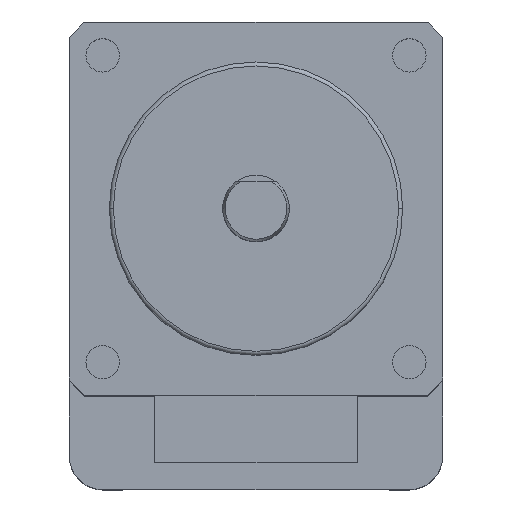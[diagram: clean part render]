
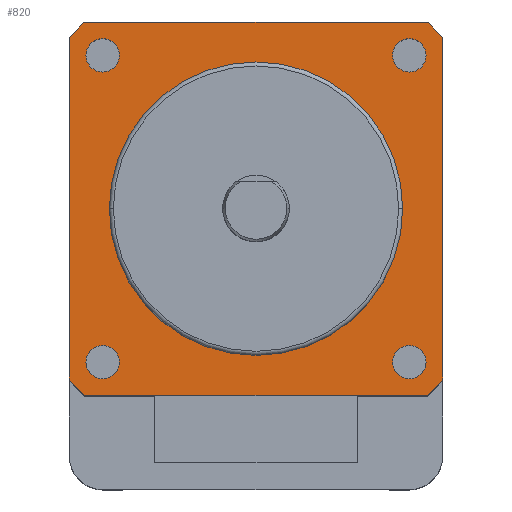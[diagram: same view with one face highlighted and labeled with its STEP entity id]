
A CAD part, top view. The second image highlights one B-rep face of the part: STEP entity #820.
In plain terms, the highlighted planar face has unit normal (0, 0, 1).
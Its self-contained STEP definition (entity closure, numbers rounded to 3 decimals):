
#7 = DIRECTION ( 'NONE',  ( 0., 0., -1. ) ) ;
#25 = LINE ( 'NONE', #780, #776 ) ;
#27 = FACE_BOUND ( 'NONE', #1908, .T. ) ;
#32 = VERTEX_POINT ( 'NONE', #1459 ) ;
#42 = CIRCLE ( 'NONE', #1407, 1.25 ) ;
#49 = ORIENTED_EDGE ( 'NONE', *, *, #1116, .F. ) ;
#64 = DIRECTION ( 'NONE',  ( 0., 0., 1. ) ) ;
#69 = DIRECTION ( 'NONE',  ( 0., 0., -1. ) ) ;
#83 = EDGE_CURVE ( 'NONE', #304, #1689, #1114, .T. ) ;
#108 = EDGE_CURVE ( 'NONE', #481, #397, #1608, .T. ) ;
#157 = CIRCLE ( 'NONE', #1224, 1.25 ) ;
#163 = VERTEX_POINT ( 'NONE', #314 ) ;
#166 = CARTESIAN_POINT ( 'NONE',  ( -14., -12.845, 0. ) ) ;
#170 = AXIS2_PLACEMENT_3D ( 'NONE', #701, #1456, #561 ) ;
#184 = AXIS2_PLACEMENT_3D ( 'NONE', #1494, #745, #1627 ) ;
#193 = CARTESIAN_POINT ( 'NONE',  ( -10.25, -11.5, 0. ) ) ;
#202 = FACE_BOUND ( 'NONE', #1420, .T. ) ;
#207 = AXIS2_PLACEMENT_3D ( 'NONE', #1006, #7, #1741 ) ;
#244 = CARTESIAN_POINT ( 'NONE',  ( -10.25, 11.5, 0. ) ) ;
#249 = DIRECTION ( 'NONE',  ( -1., 0., 0. ) ) ;
#253 = ORIENTED_EDGE ( 'NONE', *, *, #83, .F. ) ;
#280 = DIRECTION ( 'NONE',  ( 0., 0., 1. ) ) ;
#296 = DIRECTION ( 'NONE',  ( 0., 0., 1. ) ) ;
#304 = VERTEX_POINT ( 'NONE', #1111 ) ;
#306 = DIRECTION ( 'NONE',  ( 1., 0., 0. ) ) ;
#314 = CARTESIAN_POINT ( 'NONE',  ( -12.75, 11.5, 0. ) ) ;
#330 = ORIENTED_EDGE ( 'NONE', *, *, #1414, .F. ) ;
#339 = VERTEX_POINT ( 'NONE', #1846 ) ;
#342 = EDGE_CURVE ( 'NONE', #961, #163, #406, .T. ) ;
#343 = CIRCLE ( 'NONE', #207, 19. ) ;
#347 = VECTOR ( 'NONE', #1402, 1000. ) ;
#357 = AXIS2_PLACEMENT_3D ( 'NONE', #902, #280, #1916 ) ;
#373 = ORIENTED_EDGE ( 'NONE', *, *, #1369, .T. ) ;
#383 = EDGE_CURVE ( 'NONE', #738, #304, #1078, .T. ) ;
#397 = VERTEX_POINT ( 'NONE', #688 ) ;
#406 = CIRCLE ( 'NONE', #1418, 1.25 ) ;
#477 = DIRECTION ( 'NONE',  ( 1., 0., 0. ) ) ;
#481 = VERTEX_POINT ( 'NONE', #1779 ) ;
#497 = ORIENTED_EDGE ( 'NONE', *, *, #790, .F. ) ;
#500 = DIRECTION ( 'NONE',  ( 0., 0., 1. ) ) ;
#549 = EDGE_CURVE ( 'NONE', #163, #961, #979, .T. ) ;
#561 = DIRECTION ( 'NONE',  ( -1., 0., 0. ) ) ;
#570 = CIRCLE ( 'NONE', #1680, 1.25 ) ;
#573 = ORIENTED_EDGE ( 'NONE', *, *, #1577, .F. ) ;
#641 = VERTEX_POINT ( 'NONE', #1509 ) ;
#643 = VERTEX_POINT ( 'NONE', #1376 ) ;
#644 = ORIENTED_EDGE ( 'NONE', *, *, #1064, .F. ) ;
#652 = DIRECTION ( 'NONE',  ( 1., 0., 0. ) ) ;
#663 = CIRCLE ( 'NONE', #1125, 19. ) ;
#688 = CARTESIAN_POINT ( 'NONE',  ( 10.25, 11.5, 0. ) ) ;
#700 = CARTESIAN_POINT ( 'NONE',  ( -11.5, -11.5, 0. ) ) ;
#701 = CARTESIAN_POINT ( 'NONE',  ( 0., 0., 0. ) ) ;
#716 = ORIENTED_EDGE ( 'NONE', *, *, #1774, .F. ) ;
#729 = CARTESIAN_POINT ( 'NONE',  ( -12.845, -14., 0. ) ) ;
#738 = VERTEX_POINT ( 'NONE', #1786 ) ;
#745 = DIRECTION ( 'NONE',  ( 0., 0., 1. ) ) ;
#748 = PLANE ( 'NONE',  #1776 ) ;
#753 = VERTEX_POINT ( 'NONE', #729 ) ;
#760 = ORIENTED_EDGE ( 'NONE', *, *, #1817, .F. ) ;
#776 = VECTOR ( 'NONE', #1113, 1000. ) ;
#777 = AXIS2_PLACEMENT_3D ( 'NONE', #1664, #1676, #1374 ) ;
#780 = CARTESIAN_POINT ( 'NONE',  ( 0., -14., 0. ) ) ;
#787 = CARTESIAN_POINT ( 'NONE',  ( 12.845, -14., 0. ) ) ;
#790 = EDGE_CURVE ( 'NONE', #32, #1724, #570, .T. ) ;
#793 = CARTESIAN_POINT ( 'NONE',  ( 10.25, -11.5, 0. ) ) ;
#820 = ADVANCED_FACE ( 'NONE', ( #202, #27, #1051, #1812, #1762 ), #748, .F. ) ;
#852 = AXIS2_PLACEMENT_3D ( 'NONE', #1000, #1733, #249 ) ;
#872 = DIRECTION ( 'NONE',  ( 1., 0., 0. ) ) ;
#893 = CARTESIAN_POINT ( 'NONE',  ( 0., 14., 0. ) ) ;
#902 = CARTESIAN_POINT ( 'NONE',  ( -11.5, 11.5, 0. ) ) ;
#948 = CARTESIAN_POINT ( 'NONE',  ( 0., 0., 0. ) ) ;
#955 = ORIENTED_EDGE ( 'NONE', *, *, #108, .F. ) ;
#961 = VERTEX_POINT ( 'NONE', #244 ) ;
#962 = ORIENTED_EDGE ( 'NONE', *, *, #1272, .T. ) ;
#979 = CIRCLE ( 'NONE', #357, 1.25 ) ;
#981 = DIRECTION ( 'NONE',  ( 1., 0., 0. ) ) ;
#1000 = CARTESIAN_POINT ( 'NONE',  ( 0., 0., 0. ) ) ;
#1006 = CARTESIAN_POINT ( 'NONE',  ( 0., 0., 0. ) ) ;
#1012 = DIRECTION ( 'NONE',  ( 0., 0., 1. ) ) ;
#1017 = VECTOR ( 'NONE', #1782, 1000. ) ;
#1051 = FACE_BOUND ( 'NONE', #1397, .T. ) ;
#1064 = EDGE_CURVE ( 'NONE', #753, #1542, #1386, .T. ) ;
#1078 = CIRCLE ( 'NONE', #852, 19. ) ;
#1094 = VECTOR ( 'NONE', #1173, 1000. ) ;
#1105 = ORIENTED_EDGE ( 'NONE', *, *, #383, .F. ) ;
#1111 = CARTESIAN_POINT ( 'NONE',  ( -12.845, 14., 0. ) ) ;
#1113 = DIRECTION ( 'NONE',  ( 1., 0., 0. ) ) ;
#1114 = LINE ( 'NONE', #893, #1017 ) ;
#1116 = EDGE_CURVE ( 'NONE', #1689, #641, #343, .T. ) ;
#1125 = AXIS2_PLACEMENT_3D ( 'NONE', #948, #69, #1416 ) ;
#1166 = CARTESIAN_POINT ( 'NONE',  ( 14., 0., 0. ) ) ;
#1173 = DIRECTION ( 'NONE',  ( 0., 1., 0. ) ) ;
#1188 = EDGE_LOOP ( 'NONE', ( #1373, #1749 ) ) ;
#1192 = VERTEX_POINT ( 'NONE', #787 ) ;
#1224 = AXIS2_PLACEMENT_3D ( 'NONE', #1694, #500, #652 ) ;
#1272 = EDGE_CURVE ( 'NONE', #753, #1192, #25, .T. ) ;
#1350 = CARTESIAN_POINT ( 'NONE',  ( 0., 0., 0. ) ) ;
#1359 = CARTESIAN_POINT ( 'NONE',  ( 11.5, -11.5, 0. ) ) ;
#1369 = EDGE_CURVE ( 'NONE', #339, #641, #1878, .T. ) ;
#1373 = ORIENTED_EDGE ( 'NONE', *, *, #342, .F. ) ;
#1374 = DIRECTION ( 'NONE',  ( 1., 0., 0. ) ) ;
#1376 = CARTESIAN_POINT ( 'NONE',  ( -12.75, -11.5, 0. ) ) ;
#1383 = DIRECTION ( 'NONE',  ( 0., 0., 1. ) ) ;
#1384 = CIRCLE ( 'NONE', #777, 1.25 ) ;
#1386 = CIRCLE ( 'NONE', #170, 19. ) ;
#1397 = EDGE_LOOP ( 'NONE', ( #955, #573 ) ) ;
#1402 = DIRECTION ( 'NONE',  ( 0., 1., 0. ) ) ;
#1407 = AXIS2_PLACEMENT_3D ( 'NONE', #1535, #1383, #477 ) ;
#1414 = EDGE_CURVE ( 'NONE', #1613, #643, #1628, .T. ) ;
#1416 = DIRECTION ( 'NONE',  ( -1., 0., 0. ) ) ;
#1418 = AXIS2_PLACEMENT_3D ( 'NONE', #1870, #64, #981 ) ;
#1420 = EDGE_LOOP ( 'NONE', ( #497, #1629 ) ) ;
#1456 = DIRECTION ( 'NONE',  ( 0., 0., -1. ) ) ;
#1459 = CARTESIAN_POINT ( 'NONE',  ( 12.75, -11.5, 0. ) ) ;
#1494 = CARTESIAN_POINT ( 'NONE',  ( 11.5, 11.5, 0. ) ) ;
#1509 = CARTESIAN_POINT ( 'NONE',  ( 14., 12.845, 0. ) ) ;
#1535 = CARTESIAN_POINT ( 'NONE',  ( -11.5, -11.5, 0. ) ) ;
#1542 = VERTEX_POINT ( 'NONE', #166 ) ;
#1545 = CARTESIAN_POINT ( 'NONE',  ( 12.845, 14., 0. ) ) ;
#1577 = EDGE_CURVE ( 'NONE', #397, #481, #1384, .T. ) ;
#1608 = CIRCLE ( 'NONE', #184, 1.25 ) ;
#1613 = VERTEX_POINT ( 'NONE', #193 ) ;
#1618 = EDGE_CURVE ( 'NONE', #643, #1613, #42, .T. ) ;
#1626 = ORIENTED_EDGE ( 'NONE', *, *, #1618, .F. ) ;
#1627 = DIRECTION ( 'NONE',  ( 1., 0., 0. ) ) ;
#1628 = CIRCLE ( 'NONE', #1667, 1.25 ) ;
#1629 = ORIENTED_EDGE ( 'NONE', *, *, #1738, .F. ) ;
#1650 = DIRECTION ( 'NONE',  ( 0., 0., -1. ) ) ;
#1664 = CARTESIAN_POINT ( 'NONE',  ( 11.5, 11.5, 0. ) ) ;
#1667 = AXIS2_PLACEMENT_3D ( 'NONE', #700, #1012, #872 ) ;
#1676 = DIRECTION ( 'NONE',  ( 0., 0., 1. ) ) ;
#1680 = AXIS2_PLACEMENT_3D ( 'NONE', #1359, #296, #306 ) ;
#1689 = VERTEX_POINT ( 'NONE', #1545 ) ;
#1694 = CARTESIAN_POINT ( 'NONE',  ( 11.5, -11.5, 0. ) ) ;
#1724 = VERTEX_POINT ( 'NONE', #793 ) ;
#1733 = DIRECTION ( 'NONE',  ( 0., 0., -1. ) ) ;
#1738 = EDGE_CURVE ( 'NONE', #1724, #32, #157, .T. ) ;
#1741 = DIRECTION ( 'NONE',  ( -1., 0., 0. ) ) ;
#1743 = LINE ( 'NONE', #1842, #347 ) ;
#1749 = ORIENTED_EDGE ( 'NONE', *, *, #549, .F. ) ;
#1762 = FACE_OUTER_BOUND ( 'NONE', #1854, .T. ) ;
#1774 = EDGE_CURVE ( 'NONE', #339, #1192, #663, .T. ) ;
#1776 = AXIS2_PLACEMENT_3D ( 'NONE', #1350, #1650, #1795 ) ;
#1779 = CARTESIAN_POINT ( 'NONE',  ( 12.75, 11.5, 0. ) ) ;
#1782 = DIRECTION ( 'NONE',  ( 1., 0., 0. ) ) ;
#1786 = CARTESIAN_POINT ( 'NONE',  ( -14., 12.845, 0. ) ) ;
#1795 = DIRECTION ( 'NONE',  ( -1., 0., 0. ) ) ;
#1812 = FACE_BOUND ( 'NONE', #1188, .T. ) ;
#1817 = EDGE_CURVE ( 'NONE', #1542, #738, #1743, .T. ) ;
#1842 = CARTESIAN_POINT ( 'NONE',  ( -14., 0., 0. ) ) ;
#1846 = CARTESIAN_POINT ( 'NONE',  ( 14., -12.845, 0. ) ) ;
#1854 = EDGE_LOOP ( 'NONE', ( #760, #644, #962, #716, #373, #49, #253, #1105 ) ) ;
#1870 = CARTESIAN_POINT ( 'NONE',  ( -11.5, 11.5, 0. ) ) ;
#1878 = LINE ( 'NONE', #1166, #1094 ) ;
#1908 = EDGE_LOOP ( 'NONE', ( #330, #1626 ) ) ;
#1916 = DIRECTION ( 'NONE',  ( 1., 0., 0. ) ) ;
